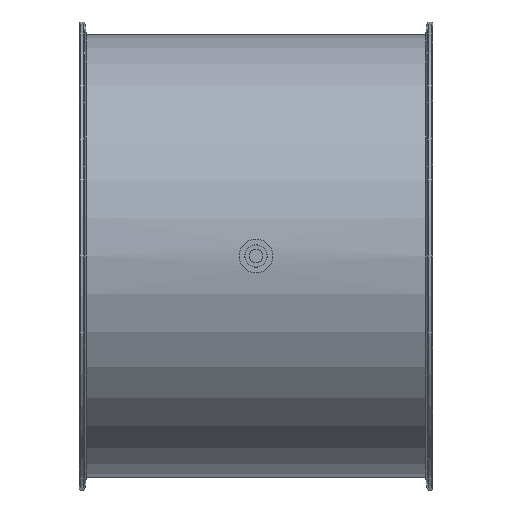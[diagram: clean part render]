
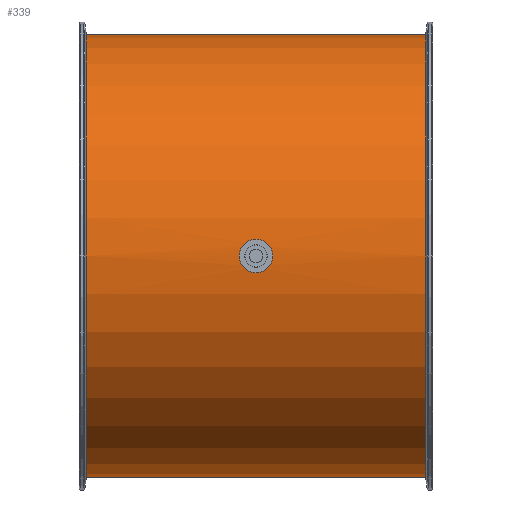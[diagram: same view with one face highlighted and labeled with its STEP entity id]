
A CAD part, front view. The second image highlights one B-rep face of the part: STEP entity #339.
In plain terms, the highlighted cylindrical face has radius 251 mm (diameter 502 mm), a full revolution.
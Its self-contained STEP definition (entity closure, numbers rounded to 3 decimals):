
#101=B_SPLINE_CURVE_WITH_KNOTS('',3,(#1411,#1412,#1413,#1414,#1415,#1416,
#1417,#1418,#1419,#1420,#1421,#1422,#1423,#1424,#1425,#1426,#1427,#1428),
 .UNSPECIFIED.,.T.,.F.,(2,2,2,2,2,2,2,2,2,2,2),(-0.125,0.,0.125,
0.25,0.375,0.5,0.625,
0.75,0.875,1.,1.125),.UNSPECIFIED.);
#102=B_SPLINE_CURVE_WITH_KNOTS('',3,(#1430,#1431,#1432,#1433,#1434,#1435,
#1436,#1437,#1438,#1439,#1440,#1441,#1442,#1443,#1444,#1445,#1446,#1447),
 .UNSPECIFIED.,.T.,.F.,(2,2,2,2,2,2,2,2,2,2,2),(-0.125,0.,0.125,
0.25,0.375,0.5,0.625,
0.75,0.875,1.,1.125),.UNSPECIFIED.);
#153=FACE_BOUND('',#459,.T.);
#154=FACE_BOUND('',#460,.T.);
#155=FACE_BOUND('',#461,.T.);
#156=FACE_BOUND('',#462,.T.);
#241=CYLINDRICAL_SURFACE('',#980,251.);
#280=CIRCLE('',#975,251.);
#282=CIRCLE('',#978,251.);
#339=ADVANCED_FACE('',(#153,#154,#155,#156),#241,.T.);
#459=EDGE_LOOP('',(#601));
#460=EDGE_LOOP('',(#602));
#461=EDGE_LOOP('',(#603));
#462=EDGE_LOOP('',(#604));
#601=ORIENTED_EDGE('',*,*,#832,.F.);
#602=ORIENTED_EDGE('',*,*,#834,.F.);
#603=ORIENTED_EDGE('',*,*,#835,.F.);
#604=ORIENTED_EDGE('',*,*,#836,.F.);
#750=VERTEX_POINT('',#1404);
#752=VERTEX_POINT('',#1409);
#753=VERTEX_POINT('',#1429);
#754=VERTEX_POINT('',#1448);
#832=EDGE_CURVE('',#750,#750,#280,.T.);
#834=EDGE_CURVE('',#752,#752,#282,.T.);
#835=EDGE_CURVE('',#753,#753,#101,.T.);
#836=EDGE_CURVE('',#754,#754,#102,.T.);
#975=AXIS2_PLACEMENT_3D('',#1403,#1138,#1139);
#978=AXIS2_PLACEMENT_3D('',#1408,#1144,#1145);
#980=AXIS2_PLACEMENT_3D('',#1449,#1148,#1149);
#1138=DIRECTION('',(1.,0.,0.));
#1139=DIRECTION('',(0.,0.,-1.));
#1144=DIRECTION('',(-1.,0.,0.));
#1145=DIRECTION('',(0.,0.,1.));
#1148=DIRECTION('',(1.,0.,0.));
#1149=DIRECTION('',(0.,0.,-1.));
#1403=CARTESIAN_POINT('',(192.133,-109.,125.));
#1404=CARTESIAN_POINT('',(192.133,-109.,-126.));
#1408=CARTESIAN_POINT('',(-192.133,-109.,125.));
#1409=CARTESIAN_POINT('',(-192.133,-109.,376.));
#1411=CARTESIAN_POINT('',(3.436,141.663,112.));
#1412=CARTESIAN_POINT('',(-3.436,141.663,112.));
#1413=CARTESIAN_POINT('',(-6.795,141.744,113.41));
#1414=CARTESIAN_POINT('',(-11.591,141.92,118.207));
#1415=CARTESIAN_POINT('',(-12.998,142.,121.601));
#1416=CARTESIAN_POINT('',(-13.002,142.,128.385));
#1417=CARTESIAN_POINT('',(-11.623,141.921,131.76));
#1418=CARTESIAN_POINT('',(-6.771,141.743,136.616));
#1419=CARTESIAN_POINT('',(-3.398,141.663,137.999));
#1420=CARTESIAN_POINT('',(3.389,141.663,138.001));
#1421=CARTESIAN_POINT('',(6.784,141.743,136.596));
#1422=CARTESIAN_POINT('',(11.583,141.919,131.806));
#1423=CARTESIAN_POINT('',(12.997,142.,128.444));
#1424=CARTESIAN_POINT('',(13.003,142.,121.583));
#1425=CARTESIAN_POINT('',(11.597,141.92,118.216));
#1426=CARTESIAN_POINT('',(6.802,141.744,113.413));
#1427=CARTESIAN_POINT('',(3.436,141.663,112.));
#1428=CARTESIAN_POINT('',(-3.436,141.663,112.));
#1429=CARTESIAN_POINT('',(0.,141.663,112.));
#1430=CARTESIAN_POINT('',(-3.436,-359.663,112.));
#1431=CARTESIAN_POINT('',(3.436,-359.663,112.));
#1432=CARTESIAN_POINT('',(6.795,-359.744,113.41));
#1433=CARTESIAN_POINT('',(11.591,-359.92,118.207));
#1434=CARTESIAN_POINT('',(12.998,-360.,121.601));
#1435=CARTESIAN_POINT('',(13.002,-360.,128.385));
#1436=CARTESIAN_POINT('',(11.623,-359.921,131.76));
#1437=CARTESIAN_POINT('',(6.771,-359.743,136.616));
#1438=CARTESIAN_POINT('',(3.398,-359.663,137.999));
#1439=CARTESIAN_POINT('',(-3.389,-359.663,138.001));
#1440=CARTESIAN_POINT('',(-6.784,-359.743,136.596));
#1441=CARTESIAN_POINT('',(-11.583,-359.919,131.806));
#1442=CARTESIAN_POINT('',(-12.997,-360.,128.444));
#1443=CARTESIAN_POINT('',(-13.003,-360.,121.583));
#1444=CARTESIAN_POINT('',(-11.597,-359.92,118.216));
#1445=CARTESIAN_POINT('',(-6.802,-359.744,113.413));
#1446=CARTESIAN_POINT('',(-3.436,-359.663,112.));
#1447=CARTESIAN_POINT('',(3.436,-359.663,112.));
#1448=CARTESIAN_POINT('',(0.,-359.663,112.));
#1449=CARTESIAN_POINT('',(-200.,-109.,125.));
